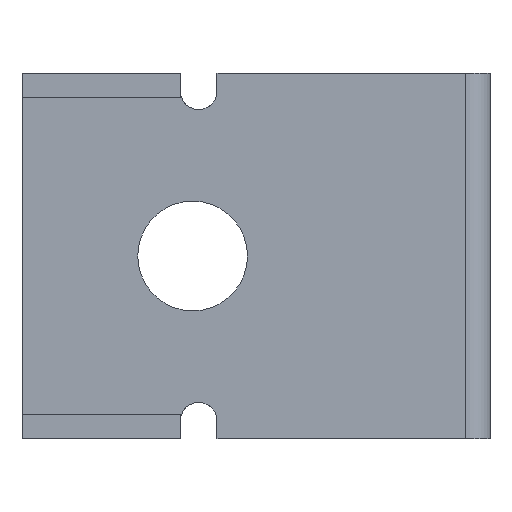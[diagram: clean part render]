
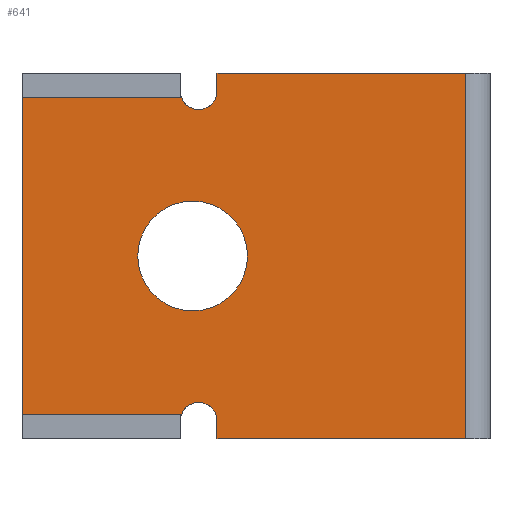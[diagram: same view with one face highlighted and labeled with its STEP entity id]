
A CAD part, left-side view. The second image highlights one B-rep face of the part: STEP entity #641.
In plain terms, the highlighted planar face has unit normal (-1, 0, 0).
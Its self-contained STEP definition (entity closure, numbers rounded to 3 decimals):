
#355=CARTESIAN_POINT('',(-15.683,-4.,0.0));
#356=VERTEX_POINT('',#355);
#364=CARTESIAN_POINT('',(-15.683,6.2,0.));
#365=VERTEX_POINT('',#364);
#366=CARTESIAN_POINT('',(-15.683,-4.,0.0));
#367=DIRECTION('',(0.0,1.0,0.0));
#368=VECTOR('',#367,10.2);
#369=LINE('',#366,#368);
#370=EDGE_CURVE('',#356,#365,#369,.T.);
#516=CARTESIAN_POINT('',(-15.683,-4.,15.0));
#517=VERTEX_POINT('',#516);
#525=CARTESIAN_POINT('',(-15.683,-4.,15.0));
#526=DIRECTION('',(0.0,0.0,-1.0));
#527=VECTOR('',#526,15.0);
#528=LINE('',#525,#527);
#529=EDGE_CURVE('',#517,#356,#528,.T.);
#541=CARTESIAN_POINT('',(-15.683,7.7,0.0));
#542=DIRECTION('',(-1.0,0.0,0.0));
#543=DIRECTION('',(0.0,0.0,1.0));
#544=AXIS2_PLACEMENT_3D('',#541,#542,#543);
#545=PLANE('',#544);
#546=ORIENTED_EDGE('',*,*,#529,.F.);
#547=CARTESIAN_POINT('',(-15.683,6.2,15.));
#548=VERTEX_POINT('',#547);
#549=CARTESIAN_POINT('',(-15.683,-4.,15.0));
#550=DIRECTION('',(0.0,1.0,0.0));
#551=VECTOR('',#550,10.2);
#552=LINE('',#549,#551);
#553=EDGE_CURVE('',#517,#548,#552,.T.);
#554=ORIENTED_EDGE('',*,*,#553,.T.);
#555=CARTESIAN_POINT('',(-15.683,6.2,14.25));
#556=VERTEX_POINT('',#555);
#557=CARTESIAN_POINT('',(-15.683,6.2,15.));
#558=DIRECTION('',(0.0,0.0,-1.0));
#559=VECTOR('',#558,0.75);
#560=LINE('',#557,#559);
#561=EDGE_CURVE('',#548,#556,#560,.T.);
#562=ORIENTED_EDGE('',*,*,#561,.T.);
#563=CARTESIAN_POINT('',(-15.683,7.7,14.25));
#564=VERTEX_POINT('',#563);
#565=CARTESIAN_POINT('',(-15.683,6.95,14.25));
#566=DIRECTION('',(1.0,0.0,0.0));
#567=DIRECTION('',(0.0,-1.0,0.0));
#568=AXIS2_PLACEMENT_3D('',#565,#566,#567);
#569=CIRCLE('',#568,0.75);
#570=EDGE_CURVE('',#556,#564,#569,.T.);
#571=ORIENTED_EDGE('',*,*,#570,.T.);
#572=CARTESIAN_POINT('',(-15.683,7.7,14.0));
#573=VERTEX_POINT('',#572);
#574=CARTESIAN_POINT('',(-15.683,7.7,14.25));
#575=DIRECTION('',(0.0,0.0,-1.0));
#576=VECTOR('',#575,0.25);
#577=LINE('',#574,#576);
#578=EDGE_CURVE('',#564,#573,#577,.T.);
#579=ORIENTED_EDGE('',*,*,#578,.T.);
#580=CARTESIAN_POINT('',(-15.683,14.2,14.0));
#581=VERTEX_POINT('',#580);
#582=CARTESIAN_POINT('',(-15.683,7.7,14.0));
#583=DIRECTION('',(0.0,1.0,0.0));
#584=VECTOR('',#583,6.5);
#585=LINE('',#582,#584);
#586=EDGE_CURVE('',#573,#581,#585,.T.);
#587=ORIENTED_EDGE('',*,*,#586,.T.);
#588=CARTESIAN_POINT('',(-15.683,14.2,1.0));
#589=VERTEX_POINT('',#588);
#590=CARTESIAN_POINT('',(-15.683,14.2,1.0));
#591=DIRECTION('',(0.0,0.0,1.0));
#592=VECTOR('',#591,13.0);
#593=LINE('',#590,#592);
#594=EDGE_CURVE('',#589,#581,#593,.T.);
#595=ORIENTED_EDGE('',*,*,#594,.F.);
#596=CARTESIAN_POINT('',(-15.683,7.7,1.0));
#597=VERTEX_POINT('',#596);
#598=CARTESIAN_POINT('',(-15.683,14.2,1.0));
#599=DIRECTION('',(0.0,-1.0,0.0));
#600=VECTOR('',#599,6.5);
#601=LINE('',#598,#600);
#602=EDGE_CURVE('',#589,#597,#601,.T.);
#603=ORIENTED_EDGE('',*,*,#602,.T.);
#604=CARTESIAN_POINT('',(-15.683,7.7,0.75));
#605=VERTEX_POINT('',#604);
#606=CARTESIAN_POINT('',(-15.683,7.7,1.0));
#607=DIRECTION('',(0.0,0.0,-1.0));
#608=VECTOR('',#607,0.25);
#609=LINE('',#606,#608);
#610=EDGE_CURVE('',#597,#605,#609,.T.);
#611=ORIENTED_EDGE('',*,*,#610,.T.);
#612=CARTESIAN_POINT('',(-15.683,6.2,0.75));
#613=VERTEX_POINT('',#612);
#614=CARTESIAN_POINT('',(-15.683,6.95,0.75));
#615=DIRECTION('',(1.0,0.0,0.0));
#616=DIRECTION('',(0.0,1.0,0.));
#617=AXIS2_PLACEMENT_3D('',#614,#615,#616);
#618=CIRCLE('',#617,0.75);
#619=EDGE_CURVE('',#605,#613,#618,.T.);
#620=ORIENTED_EDGE('',*,*,#619,.T.);
#621=CARTESIAN_POINT('',(-15.683,6.2,0.75));
#622=DIRECTION('',(0.0,0.0,-1.0));
#623=VECTOR('',#622,0.75);
#624=LINE('',#621,#623);
#625=EDGE_CURVE('',#613,#365,#624,.T.);
#626=ORIENTED_EDGE('',*,*,#625,.T.);
#627=ORIENTED_EDGE('',*,*,#370,.F.);
#628=EDGE_LOOP('',(#546,#554,#562,#571,#579,#587,#595,#603,#611,#620,#626,#627));
#629=FACE_OUTER_BOUND('',#628,.T.);
#630=CARTESIAN_POINT('',(-15.683,7.2,5.25));
#631=VERTEX_POINT('',#630);
#632=CARTESIAN_POINT('',(-15.683,7.2,7.5));
#633=DIRECTION('',(1.0,0.0,0.0));
#634=DIRECTION('',(0.0,0.0,1.0));
#635=AXIS2_PLACEMENT_3D('',#632,#633,#634);
#636=CIRCLE('',#635,2.25);
#637=EDGE_CURVE('',#631,#631,#636,.T.);
#638=ORIENTED_EDGE('',*,*,#637,.T.);
#639=EDGE_LOOP('',(#638));
#640=FACE_BOUND('',#639,.T.);
#641=ADVANCED_FACE('',(#629,#640),#545,.T.);
